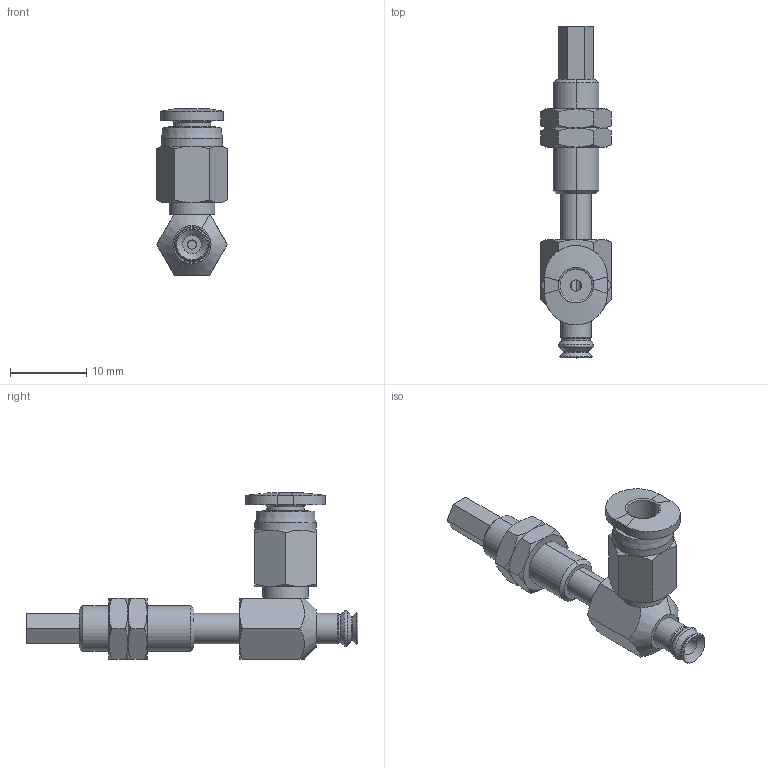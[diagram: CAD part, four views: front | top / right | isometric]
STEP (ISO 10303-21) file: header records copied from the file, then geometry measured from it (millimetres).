
FILE_DESCRIPTION(('STEP AP203'),'1');
FILE_NAME('-O.stp','2025-04-23T06:58:34',(' '),(' '),'Spatial InterOp 3D',' ',' ');
FILE_SCHEMA(('CONFIG_CONTROL_DESIGN'));
Length unit declared in the file: millimetre
Products named in the file (7): BNABPJYS-4-6-※-O; _CONNECTOR_1_5A_6; _Nut_1_5A_6_s; _NAPFTS_1_5A_6_FBODY; _NAPFTS_1_5A_6_MBODY; BPJG-4-※; PC-C_04-M3
Assembly tree (7 placements, depth 2):
  BNABPJYS-4-6-※-O
    _CONNECTOR_1_5A_6
    _Nut_1_5A_6_s  x2
    _NAPFTS_1_5A_6_FBODY
    _NAPFTS_1_5A_6_MBODY
    BPJG-4-※
    PC-C_04-M3
Bounding box: 9.24 x 43.5 x 21.77 mm (x, y, z)
Volume: 1270.6 mm3; surface area: 2688.3 mm2
Topology: 6 solids, 8 shells, 203 faces, 437 edges, 261 vertices
Faces by surface type: cone 77, plane 72, cylinder 35, torus 12, bspline 4, revolution 3
Full cylindrical faces by diameter (mm): 2 x1, 2.4 x1, 2.5 x2, 3 x2, 4 x1, 4.9 x1, 6 x1, 6.1 x1, 8 x1
Entity records: 5183 total; most frequent: CARTESIAN_POINT 1248, DIRECTION 768, ORIENTED_EDGE 676, EDGE_CURVE 339, AXIS2_PLACEMENT_3D 326, EDGE_LOOP 233, VERTEX_POINT 220, CIRCLE 149
